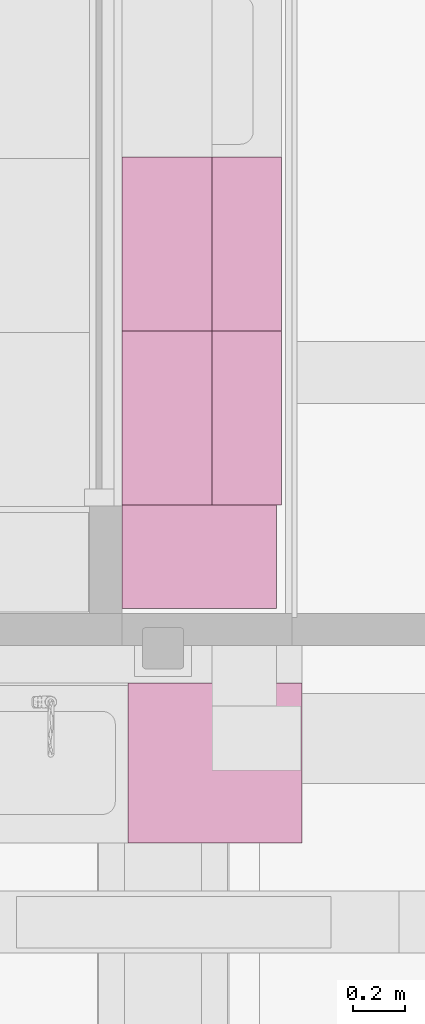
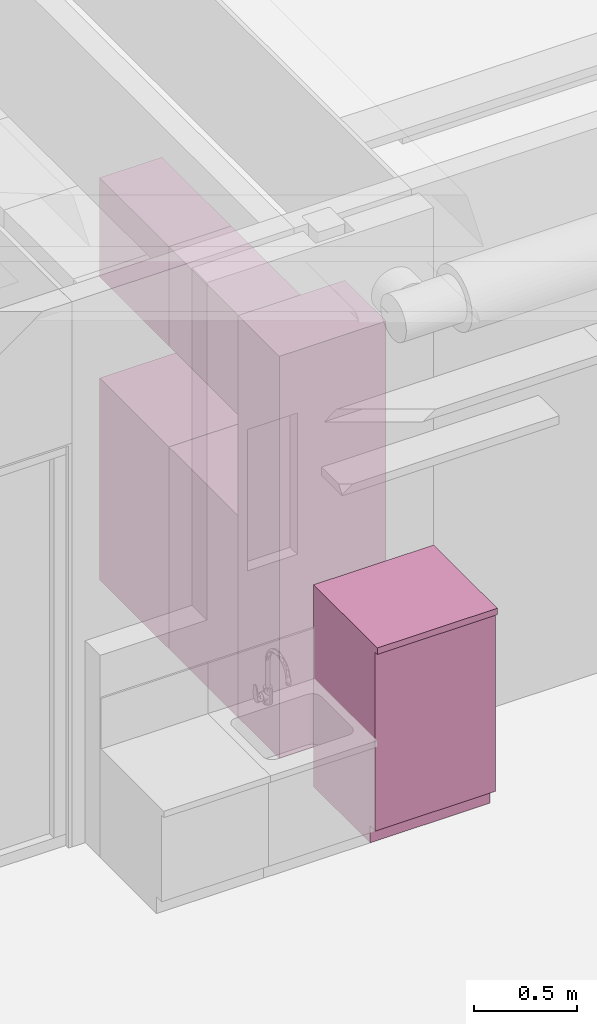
# One storey, part 84 of 128: 4 furnishings.
"""IFC2X3 building model written with IfcOpenShell, lengths in millimetres."""

from ifc_helpers import new_model, entity, si_unit, converted_unit, derived_unit, direction, frame, origin, origin_2d_with_axis, place, context, subcontext, project, spatial, polyline, rectangle, outline, extrude, source, transform, mapped, material, type_object, type_shapes, element, save


model = new_model("IFC2X3")

# Units and contexts
model_context = context("Model", 3, precision=0.01, world=origin(), true_north=direction((6.123031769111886e-17, 1.0)))
body_context = subcontext(model_context, "Body", "Model", "MODEL_VIEW")
ifc_project = project(units=[si_unit("LENGTHUNIT", "METRE", prefix="MILLI"), si_unit("AREAUNIT", "SQUARE_METRE"), si_unit("VOLUMEUNIT", "CUBIC_METRE"), converted_unit("PLANEANGLEUNIT", "DEGREE", entity("IfcRatioMeasure", 0.017453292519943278), si_unit("PLANEANGLEUNIT", "RADIAN"), dimensions=[0, 0, 0, 0, 0, 0, 0]), si_unit("MASSUNIT", "GRAM", prefix="KILO"), derived_unit("MASSDENSITYUNIT", [(si_unit("MASSUNIT", "GRAM", prefix="KILO"), 1), (si_unit("LENGTHUNIT", "METRE"), -3)]), derived_unit("IONCONCENTRATIONUNIT", [(si_unit("MASSUNIT", "GRAM", prefix="KILO"), 1), (si_unit("LENGTHUNIT", "METRE"), -3)]), derived_unit("MOMENTOFINERTIAUNIT", [(si_unit("LENGTHUNIT", "METRE"), 4)]), si_unit("TIMEUNIT", "SECOND"), si_unit("FREQUENCYUNIT", "HERTZ"), si_unit("THERMODYNAMICTEMPERATUREUNIT", "DEGREE_CELSIUS"), derived_unit("THERMALTRANSMITTANCEUNIT", [(si_unit("MASSUNIT", "GRAM", prefix="KILO"), 1), (si_unit("THERMODYNAMICTEMPERATUREUNIT", "KELVIN"), -1), (si_unit("TIMEUNIT", "SECOND"), -3)]), derived_unit("THERMALCONDUCTANCEUNIT", [(si_unit("MASSUNIT", "GRAM", prefix="KILO"), 1), (si_unit("THERMODYNAMICTEMPERATUREUNIT", "KELVIN"), -1), (si_unit("TIMEUNIT", "SECOND"), -3), (si_unit("LENGTHUNIT", "METRE"), 1)]), derived_unit("VOLUMETRICFLOWRATEUNIT", [(si_unit("LENGTHUNIT", "METRE"), 3), (si_unit("TIMEUNIT", "SECOND"), -1)]), derived_unit("MASSFLOWRATEUNIT", [(si_unit("MASSUNIT", "GRAM", prefix="KILO"), 1), (si_unit("TIMEUNIT", "SECOND"), -1)]), derived_unit("ROTATIONALFREQUENCYUNIT", [(si_unit("TIMEUNIT", "SECOND"), -1)]), si_unit("ELECTRICCURRENTUNIT", "AMPERE"), si_unit("ELECTRICVOLTAGEUNIT", "VOLT"), si_unit("POWERUNIT", "WATT"), si_unit("FORCEUNIT", "NEWTON", prefix="KILO"), si_unit("ILLUMINANCEUNIT", "LUX"), si_unit("LUMINOUSFLUXUNIT", "LUMEN"), si_unit("LUMINOUSINTENSITYUNIT", "CANDELA"), derived_unit("USERDEFINED", [(si_unit("MASSUNIT", "GRAM", prefix="KILO"), -1), (si_unit("LENGTHUNIT", "METRE"), -2), (si_unit("TIMEUNIT", "SECOND"), 3), (si_unit("LUMINOUSFLUXUNIT", "LUMEN"), 1)]), derived_unit("USERDEFINED", [(si_unit("MASSUNIT", "GRAM", prefix="KILO"), 1), (si_unit("TIMEUNIT", "SECOND"), -3), (si_unit("LENGTHUNIT", "METRE"), 3), (si_unit("ELECTRICCURRENTUNIT", "AMPERE"), -2)]), derived_unit("SOUNDPOWERUNIT", [(si_unit("MASSUNIT", "GRAM", prefix="KILO"), 1), (si_unit("TIMEUNIT", "SECOND"), -3), (si_unit("LENGTHUNIT", "METRE"), 2)]), derived_unit("SOUNDPRESSUREUNIT", [(si_unit("MASSUNIT", "GRAM", prefix="KILO"), 1), (si_unit("LENGTHUNIT", "METRE"), -1), (si_unit("TIMEUNIT", "SECOND"), -2)]), derived_unit("LINEARVELOCITYUNIT", [(si_unit("LENGTHUNIT", "METRE"), 1), (si_unit("TIMEUNIT", "SECOND"), -1)]), si_unit("PRESSUREUNIT", "PASCAL"), derived_unit("USERDEFINED", [(si_unit("MASSUNIT", "GRAM", prefix="KILO"), 1), (si_unit("LENGTHUNIT", "METRE"), -2), (si_unit("TIMEUNIT", "SECOND"), -2)]), derived_unit("LINEARFORCEUNIT", [(si_unit("MASSUNIT", "GRAM", prefix="KILO"), 1), (si_unit("TIMEUNIT", "SECOND"), -2)]), derived_unit("PLANARFORCEUNIT", [(si_unit("MASSUNIT", "GRAM", prefix="KILO"), 1), (si_unit("LENGTHUNIT", "METRE"), -1), (si_unit("TIMEUNIT", "SECOND"), -2)]), derived_unit("SPECIFICHEATCAPACITYUNIT", [(si_unit("THERMODYNAMICTEMPERATUREUNIT", "KELVIN"), -1), (si_unit("LENGTHUNIT", "METRE"), 2), (si_unit("TIMEUNIT", "SECOND"), -2)]), derived_unit("HEATINGVALUEUNIT", [(si_unit("LENGTHUNIT", "METRE"), 2), (si_unit("TIMEUNIT", "SECOND"), -2)]), derived_unit("VAPORPERMEABILITYUNIT", [(si_unit("LENGTHUNIT", "METRE"), -1), (si_unit("TIMEUNIT", "SECOND"), 1)]), derived_unit("DYNAMICVISCOSITYUNIT", [(si_unit("MASSUNIT", "GRAM", prefix="KILO"), 1), (si_unit("TIMEUNIT", "SECOND"), -1), (si_unit("LENGTHUNIT", "METRE"), -1)]), derived_unit("THERMALEXPANSIONCOEFFICIENTUNIT", [(si_unit("THERMODYNAMICTEMPERATUREUNIT", "KELVIN"), -1)]), derived_unit("MODULUSOFELASTICITYUNIT", [(si_unit("MASSUNIT", "GRAM", prefix="KILO"), 1), (si_unit("LENGTHUNIT", "METRE"), -1), (si_unit("TIMEUNIT", "SECOND"), -2)]), derived_unit("ISOTHERMALMOISTURECAPACITYUNIT", [(si_unit("LENGTHUNIT", "METRE"), 3), (si_unit("MASSUNIT", "GRAM", prefix="KILO"), -1)]), derived_unit("MOISTUREDIFFUSIVITYUNIT", [(si_unit("TIMEUNIT", "SECOND"), -1), (si_unit("LENGTHUNIT", "METRE"), 2)])], contexts=[model_context])

# Site, building, storey, space
site_placement = place(None, frame((0.0, 300.0, 0.0)))
site = spatial("IfcSite", under=ifc_project, at=site_placement, Name="<Kadastrale nummers>", CompositionType="ELEMENT")
building_placement = place(site_placement, origin())
building = spatial("IfcBuilding", under=site, at=building_placement, CompositionType="ELEMENT")
storey_placement = place(building_placement, frame((0.0, 0.0, 3560.0000331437)))
storey = spatial("IfcBuildingStorey", under=building, at=storey_placement, Name="01 eerste verdieping", CompositionType="ELEMENT", Elevation=3560.0000331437)
space_1_placement = place(storey_placement, origin())
space_1 = spatial("IfcSpace", under=storey, at=space_1_placement, Name="1.23", CompositionType="ELEMENT", InteriorOrExteriorSpace="INTERNAL")

# Furnishings
ifc_material_1 = material(Name="ISR_HPL Kleur hout")
furniture_type_1 = type_object("IfcFurnitureType", Name="00_DAT Vaste inrichting Keukenkasten:Kast met Bovenkast 120 B675", material=ifc_material_1)
shared_shape_1 = source(origin(), body_context, "Body", "SweptSolid", [
    extrude(outline(polyline([(-615.5, 107.50000000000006), (-615.5, -442.4999999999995), (584.5, -442.4999999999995), (584.5, 177.49999999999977), (546.5, 177.49999999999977), (546.5, 157.49999999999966), (-515.5, 157.49999999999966), (-515.5, 107.50000000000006), (-615.5, 107.50000000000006)])), frame((0.0, 442.4999999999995, 615.5), z_axis=(-1.0, 0.0, 0.0), x_axis=(0.0, 0.0, 1.0)), (0.0, 0.0, -1.0), 675.0000000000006),
    extrude(rectangle(XDim=350.0, YDim=675.0000000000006, at=origin_2d_with_axis()), frame((337.5000000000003, 175.0, 1800.0), z_axis=(0.0, 0.0, 1.0), x_axis=(0.0, -1.0, 0.0)), (0.0, 0.0, 1.0), 590.0000000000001),
])
type_shapes(furniture_type_1, [shared_shape_1])
furnishing_1_placement = place(space_1_placement, frame((41240.0, 10529.99862327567, 90.00000187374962), z_axis=(0.0, 0.0, 1.0), x_axis=(0.0, -1.0, 0.0)))
element("IfcFurnishingElement", 1, at=furnishing_1_placement, inside=space_1, type_object=furniture_type_1, material=ifc_material_1, Name="00_DAT Vaste inrichting Keukenkasten:Kast met Bovenkast 120 B675", ObjectType="00_DAT Vaste inrichting Keukenkasten:Kast met Bovenkast 120 B675", context=body_context, shape_type="MappedRepresentation", body=[
    mapped(shared_shape_1, transform((0.0, 0.0, 0.0), scale=1.0)),
])
furniture_type_2 = type_object("IfcFurnitureType", Name="00_DAT Vaste inrichting Keukenkasten hoog:Hogekast Lokaal 400B", material=ifc_material_1)
shared_shape_2 = source(origin(), body_context, "Body", "SweptSolid", [
    extrude(outline(polyline([(-830.0, 166.66666666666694), (-830.0, -383.3333333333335), (1560.0, -383.3333333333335), (1560.0, 216.66666666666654), (-730.0, 216.66666666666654), (-730.0, 166.66666666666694), (-830.0, 166.66666666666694)])), frame((0.0, 383.3333333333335, 830.0), z_axis=(-1.0, 0.0, 0.0), x_axis=(0.0, 0.0, 1.0)), (0.0, 0.0, -1.0), 400.00000000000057),
])
type_shapes(furniture_type_2, [shared_shape_2])
furnishing_2_placement = place(space_1_placement, frame((41240.0, 9854.998623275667, 90.00000187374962), z_axis=(0.0, 0.0, 1.0), x_axis=(0.0, -1.0, 0.0)))
element("IfcFurnishingElement", 2, at=furnishing_2_placement, inside=space_1, type_object=furniture_type_2, material=ifc_material_1, Name="00_DAT Vaste inrichting Keukenkasten hoog:Hogekast Lokaal 400B", ObjectType="00_DAT Vaste inrichting Keukenkasten hoog:Hogekast Lokaal 400B", context=body_context, shape_type="MappedRepresentation", body=[
    mapped(shared_shape_2, transform((0.0, 0.0, 0.0), scale=1.0)),
])
furniture_type_3 = type_object("IfcFurnitureType", Name="00_DAT Vaste inrichting Keukenkasten:Kast met Bovenkast 120 B675", material=ifc_material_1)
shared_shape_3 = source(origin(), body_context, "Body", "SweptSolid", [
    extrude(outline(polyline([(-615.5, 107.50000000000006), (-615.5, -442.4999999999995), (584.5, -442.4999999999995), (584.5, 177.49999999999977), (546.5, 177.49999999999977), (546.5, 157.49999999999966), (-515.5, 157.49999999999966), (-515.5, 107.50000000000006), (-615.5, 107.50000000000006)])), frame((0.0, 442.4999999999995, 615.5), z_axis=(-1.0, 0.0, 0.0), x_axis=(0.0, 0.0, 1.0)), (0.0, 0.0, -1.0), 675.0000000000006),
    extrude(rectangle(XDim=350.0, YDim=675.0000000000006, at=origin_2d_with_axis()), frame((337.5000000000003, 175.0, 1800.0), z_axis=(0.0, 0.0, 1.0), x_axis=(0.0, -1.0, 0.0)), (0.0, 0.0, 1.0), 590.0000000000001),
])
type_shapes(furniture_type_3, [shared_shape_3])
furnishing_3_placement = place(space_1_placement, frame((41240.0, 11204.998623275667, 90.00000187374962), z_axis=(0.0, 0.0, 1.0), x_axis=(0.0, -1.0, 0.0)))
element("IfcFurnishingElement", 3, at=furnishing_3_placement, inside=space_1, type_object=furniture_type_3, material=ifc_material_1, Name="00_DAT Vaste inrichting Keukenkasten:Kast met Bovenkast 120 B675", ObjectType="00_DAT Vaste inrichting Keukenkasten:Kast met Bovenkast 120 B675", context=body_context, shape_type="MappedRepresentation", body=[
    mapped(shared_shape_3, transform((0.0, 0.0, 0.0), scale=1.0)),
])

# Space
space_2_placement = place(storey_placement, origin())
space_2 = spatial("IfcSpace", under=storey, at=space_2_placement, Name="1.24", CompositionType="ELEMENT", InteriorOrExteriorSpace="INTERNAL")

# Furnishing
ifc_material_2 = material(Name="ISR_RAL 9010")
furniture_type_4 = type_object("IfcFurnitureType", Name="00_DAT Vaste inrichting Keukenkasten:Kast voor verdeler", material=ifc_material_2)
shared_shape_4 = source(origin(), body_context, "Body", "SweptSolid", [
    extrude(outline(polyline([(-615.5, 107.50000000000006), (-615.5, -442.4999999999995), (584.5, -442.4999999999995), (584.5, 177.49999999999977), (546.5, 177.49999999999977), (546.5, 157.49999999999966), (-515.5, 157.49999999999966), (-515.5, 107.50000000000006), (-615.5, 107.50000000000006)])), frame((0.0, 442.4999999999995, 615.5), z_axis=(-1.0, 0.0, 0.0), x_axis=(0.0, 0.0, 1.0)), (0.0, 0.0, -1.0), 675.0000000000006),
])
type_shapes(furniture_type_4, [shared_shape_4])
furnishing_4_placement = place(space_2_placement, frame((41940.0, 9164.998623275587, 90.00000187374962), z_axis=(0.0, 0.0, 1.0), x_axis=(-1.0, 0.0, 0.0)))
element("IfcFurnishingElement", 4, at=furnishing_4_placement, inside=space_2, type_object=furniture_type_4, material=ifc_material_2, Name="00_DAT Vaste inrichting Keukenkasten:Kast voor verdeler", ObjectType="00_DAT Vaste inrichting Keukenkasten:Kast voor verdeler", context=body_context, shape_type="MappedRepresentation", body=[
    mapped(shared_shape_4, transform((0.0, 0.0, 0.0), scale=1.0)),
])

save(model, "model.ifc")
